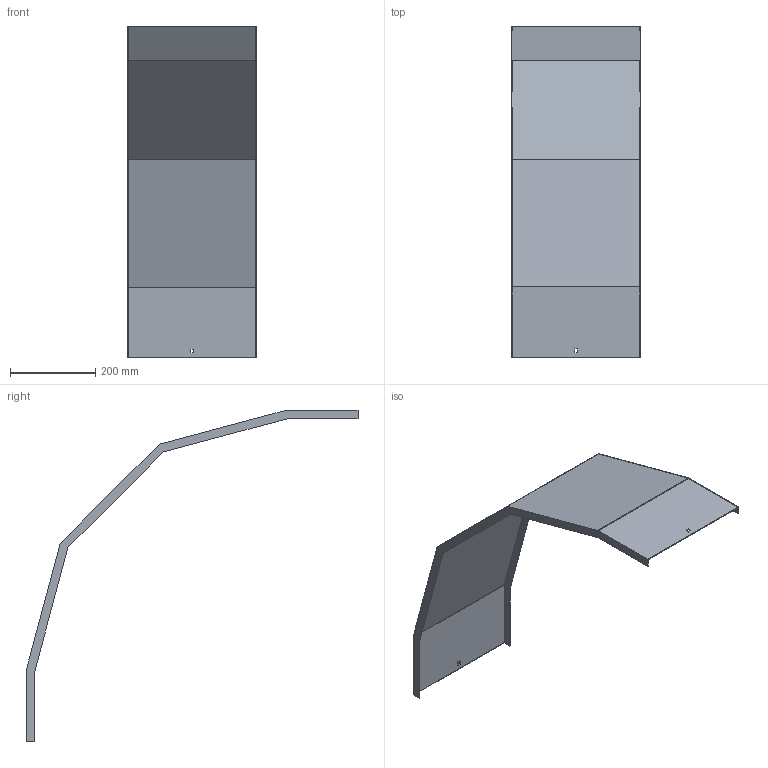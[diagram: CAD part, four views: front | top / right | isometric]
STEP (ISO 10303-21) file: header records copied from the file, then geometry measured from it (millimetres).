
FILE_DESCRIPTION (( 'STEP AP214' ), '1' );
FILE_NAME ('33N5J300.step', '2025-02-21T10:43:50', ( '' ), ( '' ), 'SwSTEP 2.0', 'SolidWorks 2023', '' );
FILE_SCHEMA (( 'AUTOMOTIVE_DESIGN' ));
Length unit declared in the file: millimetre
Products named in the file (1): 33N5J300
Bounding box: 303 x 779.96 x 779.96 mm (x, y, z)
Volume: 653149.7 mm3; surface area: 875738.9 mm2
Topology: 1 solids, 1 shells, 34 faces, 96 edges, 64 vertices
Faces by surface type: plane 34
Entity records: 1111 total; most frequent: CARTESIAN_POINT 195, ORIENTED_EDGE 192, DIRECTION 166, VECTOR 96, EDGE_CURVE 96, LINE 96, VERTEX_POINT 64, EDGE_LOOP 38
